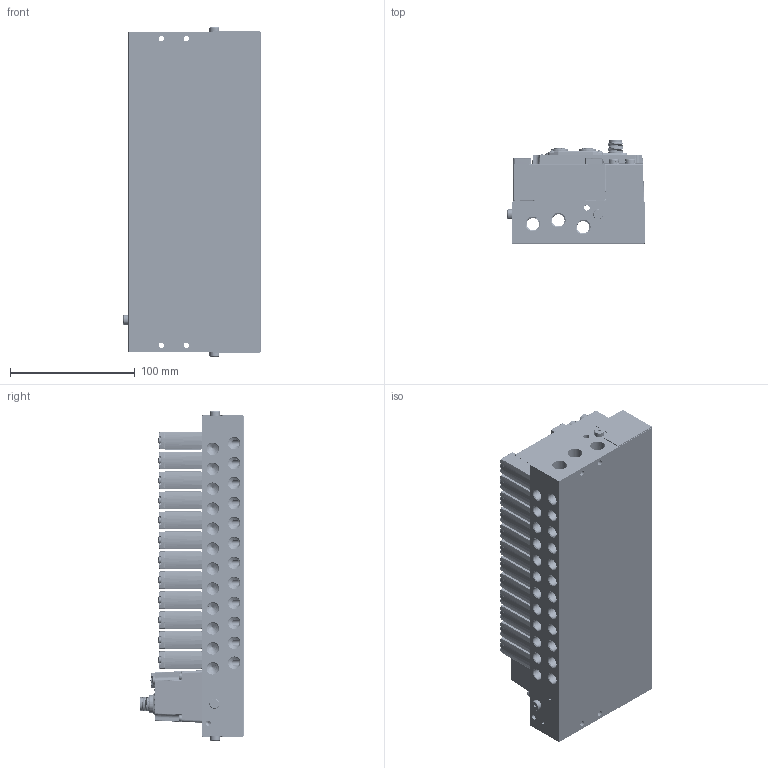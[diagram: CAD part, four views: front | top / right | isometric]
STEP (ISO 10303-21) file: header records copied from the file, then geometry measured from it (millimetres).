
FILE_DESCRIPTION((''),'2;1');
FILE_NAME('C3-L14-W-XBF-12_ASM','2026-06-22T10:56:03',('admin'),(''),'CREO PARAMETRIC BY PTC INC, 2022073','CREO PARAMETRIC BY PTC INC, 2022073','');
FILE_SCHEMA(('CONFIG_CONTROL_DESIGN'));
Products named in the file (49): M50001; 202300320_ASM-1_202300351-2-SOL; PRT0002-1-SOLID2; 202300320_ASM-1_202300318_ASM-1; NONE-43011; PRT0002-1-SOLID1; 202300320_ASM-1_202300349-1-SOL; 202300320_ASM-1_202300355-2-SOL; 202300320_ASM-1_202300353-1-SOL; PRT0002-1-SOLID4; 202300320_ASM-1_202300314_ASM-1; 202300320_ASM-1_202300353-2-SOL; 202300320_ASM-1_202300351-1-SOL; 202300320_ASM-1_202300349-2-SOL; 202300320_ASM-1_202300327-1-SOL; 202300320_ASM-1_202300144-1-SOL; NONE-184032; 202300320_ASM-1_202300355-1-SOL; NONE-199252; SURFACE-VGB14_ASM; XBF_0001_ASM; 0001; C3-L14-W-XBF-12-31561; C3-L14-W-XBF-12-188669_ASM; SURFACE-VGB14_ASM_1_ASM_1_ASM_1; M3X16-2-SOLID10001_1_1_1; M3X16-4-SOLID10001_1_1_1; SH794-1-1-SOLID1_1_1_1_1; SH794-1-1-SOLID1_1_2_1_1; SH794-1-1-SOLID1_1_3_1_1; SH794-1-1-SOLID1_1_ASM_1_ASM_1_ASM; M3X5-1-SOLID10001_1_1_1; M3X16-3-SOLID10001_1_1_1; M12D-2022_11_-70380001_1_1_1; M12D-2022_11_-82260001_1_1_1; M3X16-1-SOLID10001_1_1_1; NONE-196029_1_1_1; SH794-3-1-SOLID1_1_1_1; NONE-215390_1_1_1; M12A5-1-SOLID10001_1_1_1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
Assembly tree (91 placements, depth 9):
  C3-L14-W-XBF-12_ASM
    C3-L14-W-XBF-12-188669_ASM
      M50001  x3
      SURFACE-VGB14_ASM  x12
        202300320_ASM-1_202300351-2-SOL
        PRT0002-1-SOLID2
        202300320_ASM-1_202300318_ASM-1
        NONE-43011
        PRT0002-1-SOLID1
        202300320_ASM-1_202300349-1-SOL
        202300320_ASM-1_202300355-2-SOL
        202300320_ASM-1_202300353-1-SOL
        PRT0002-1-SOLID4
        202300320_ASM-1_202300314_ASM-1
        202300320_ASM-1_202300353-2-SOL
        202300320_ASM-1_202300351-1-SOL
        202300320_ASM-1_202300349-2-SOL
        202300320_ASM-1_202300327-1-SOL
        202300320_ASM-1_202300144-1-SOL
        NONE-184032
        202300320_ASM-1_202300355-1-SOL
        NONE-199252
      XBF_0001_ASM
      0001  x2
      C3-L14-W-XBF-12-31561
    C3EC_ASM
      C3-L14-W-XBF-24_ASM_ASM_1_ASM
        C3-L14-W-XBF-24_ASM_ASM_1_ASM_1_ASM
          C3-L14-W-XBF-24_ASM_1_ASM_1_ASM_ASM
            C3-L14-W-XBF-24-210887_ASM_1_AS_ASM
              SURFACE-VGB14_ASM_1_ASM_1_ASM_1  x24
              XBF_0001_ASM_1_ASM_1_ASM_1_ASM
                M3X16-2-SOLID10001_1_1_1
                M3X16-4-SOLID10001_1_1_1
                SH794-1-1-SOLID1_1_ASM_1_ASM_1_ASM
                  SH794-1-1-SOLID1_1_1_1_1
                  SH794-1-1-SOLID1_1_2_1_1
                  SH794-1-1-SOLID1_1_3_1_1
                M3X5-1-SOLID10001_1_1_1  x2
                M3X16-3-SOLID10001_1_1_1
                M12D-2022_11_-70380001_1_1_1
                M12D-2022_11_-82260001_1_1_1
                M3X16-1-SOLID10001_1_1_1
                NONE-196029_1_1_1
                SH794-3-1-SOLID1_1_1_1
                NONE-215390_1_1_1
                M12A5-1-SOLID10001_1_1_1
            _06--1-SOLID30001_1_1_1  x6
            IP_COVER_1_1_1
Bounding box: 110 x 83.3 x 264 mm (x, y, z)
Volume: 1155579.1 mm3; surface area: 422981.8 mm2
Topology: 244 solids, 330 shells, 19031 faces, 48820 edges, 28583 vertices
Faces by surface type: cylinder 6592, plane 4809, bspline 2076, torus 2021, cone 1805, sphere 1643, extrusion 85
Entity records: 179496 total; most frequent: CARTESIAN_POINT 65584, DIRECTION 23740, ORIENTED_EDGE 23704, EDGE_CURVE 11860, AXIS2_PLACEMENT_3D 9267, VERTEX_POINT 7603, EDGE_LOOP 5249, VECTOR 5206
